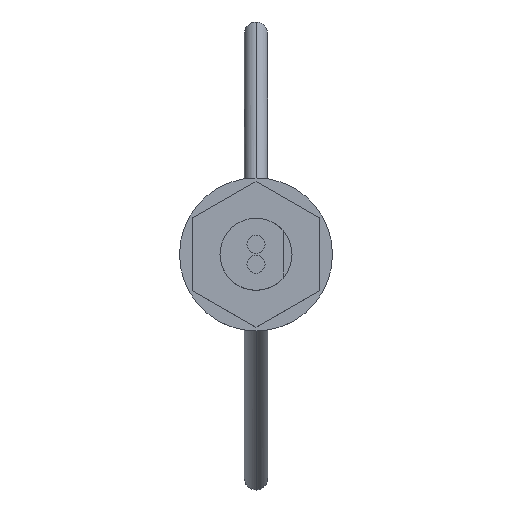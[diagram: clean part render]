
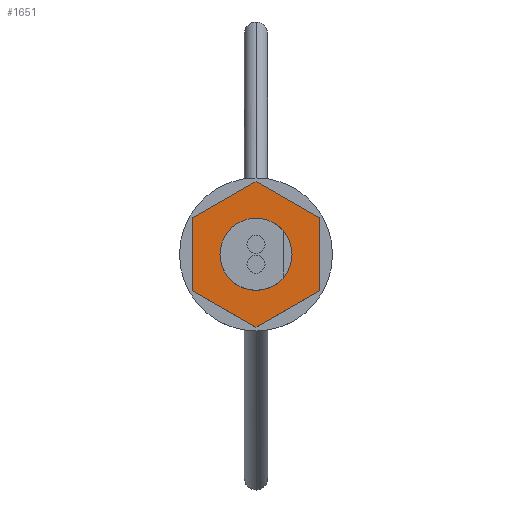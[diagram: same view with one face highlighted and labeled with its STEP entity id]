
A CAD part, top view. The second image highlights one B-rep face of the part: STEP entity #1651.
In plain terms, the highlighted planar face has unit normal (0, 0, 1) as drawn and (-1, 0, 0) by its records, which use the part's own axes.
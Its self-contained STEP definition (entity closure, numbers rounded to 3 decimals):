
#1344 = CARTESIAN_POINT ( 'NONE',  ( -9.1, -4.041, 0. ) ) ;
#1345 = DIRECTION ( 'NONE',  ( 0., -0.5, -0.866 ) ) ;
#1346 = VECTOR ( 'NONE', #1345, 1000. ) ;
#1347 = CARTESIAN_POINT ( 'NONE',  ( -9.1, 4.041, 0. ) ) ;
#1348 = LINE ( 'NONE', #1347, #1346 ) ;
#1349 = DIRECTION ( 'NONE',  ( 0., -1., 0. ) ) ;
#1350 = DIRECTION ( 'NONE',  ( -1., 0., 0. ) ) ;
#1351 = CARTESIAN_POINT ( 'NONE',  ( -9.1, 4.041, 0. ) ) ;
#1352 = AXIS2_PLACEMENT_3D ( 'NONE', #1351, #1350, #1349 ) ;
#1353 = PLANE ( 'NONE',  #1352 ) ;
#1354 = FACE_BOUND ( 'NONE', #1666, .T. ) ;
#1355 = FACE_OUTER_BOUND ( 'NONE', #1646, .T. ) ;
#1356 = DIRECTION ( 'NONE',  ( 0., 0.5, -0.866 ) ) ;
#1357 = VECTOR ( 'NONE', #1356, 1000. ) ;
#1358 = CARTESIAN_POINT ( 'NONE',  ( -9.1, 2.021, 3.5 ) ) ;
#1359 = LINE ( 'NONE', #1358, #1357 ) ;
#1360 = CARTESIAN_POINT ( 'NONE',  ( -9.1, 2.021, 3.5 ) ) ;
#1361 = CARTESIAN_POINT ( 'NONE',  ( -9.1, 4.041, 0. ) ) ;
#1362 = CARTESIAN_POINT ( 'NONE',  ( -9.1, 2.021, -3.5 ) ) ;
#1380 = DIRECTION ( 'NONE',  ( 0., 0.5, 0.866 ) ) ;
#1381 = VECTOR ( 'NONE', #1380, 1000. ) ;
#1382 = CARTESIAN_POINT ( 'NONE',  ( -9.1, -4.041, 0. ) ) ;
#1383 = LINE ( 'NONE', #1382, #1381 ) ;
#1384 = CARTESIAN_POINT ( 'NONE',  ( -9.1, -2.021, 3.5 ) ) ;
#1385 = DIRECTION ( 'NONE',  ( 0., 1., 0. ) ) ;
#1386 = VECTOR ( 'NONE', #1385, 1000. ) ;
#1387 = CARTESIAN_POINT ( 'NONE',  ( -9.1, -2.021, 3.5 ) ) ;
#1388 = LINE ( 'NONE', #1387, #1386 ) ;
#1389 = DIRECTION ( 'NONE',  ( 0., -1., 0. ) ) ;
#1390 = DIRECTION ( 'NONE',  ( -1., 0., 0. ) ) ;
#1391 = CARTESIAN_POINT ( 'NONE',  ( -9.1, 0., 0. ) ) ;
#1392 = AXIS2_PLACEMENT_3D ( 'NONE', #1391, #1390, #1389 ) ;
#1393 = CIRCLE ( 'NONE', #1392, 2. ) ;
#1402 = CARTESIAN_POINT ( 'NONE',  ( -9.1, -2.021, -3.5 ) ) ;
#1403 = DIRECTION ( 'NONE',  ( 0., -1., 0. ) ) ;
#1404 = VECTOR ( 'NONE', #1403, 1000. ) ;
#1405 = CARTESIAN_POINT ( 'NONE',  ( -9.1, 2.021, -3.5 ) ) ;
#1406 = LINE ( 'NONE', #1405, #1404 ) ;
#1411 = CARTESIAN_POINT ( 'NONE',  ( -9.1, -2., 0. ) ) ;
#1412 = CARTESIAN_POINT ( 'NONE',  ( -9.1, 2., 0. ) ) ;
#1432 = DIRECTION ( 'NONE',  ( 0., -0.5, 0.866 ) ) ;
#1433 = VECTOR ( 'NONE', #1432, 1000. ) ;
#1434 = CARTESIAN_POINT ( 'NONE',  ( -9.1, -2.021, -3.5 ) ) ;
#1435 = LINE ( 'NONE', #1434, #1433 ) ;
#1457 = DIRECTION ( 'NONE',  ( 0., -1., 0. ) ) ;
#1458 = DIRECTION ( 'NONE',  ( -1., 0., 0. ) ) ;
#1459 = AXIS2_PLACEMENT_3D ( 'NONE', #1465, #1458, #1457 ) ;
#1460 = CIRCLE ( 'NONE', #1459, 2. ) ;
#1465 = CARTESIAN_POINT ( 'NONE',  ( -9.1, 0., 0. ) ) ;
#1643 = ORIENTED_EDGE ( 'NONE', *, *, #1652, .T. ) ;
#1644 = VERTEX_POINT ( 'NONE', #1362 ) ;
#1646 = EDGE_LOOP ( 'NONE', ( #1649, #1643, #1661, #1656, #1669, #1668 ) ) ;
#1647 = VERTEX_POINT ( 'NONE', #1361 ) ;
#1648 = VERTEX_POINT ( 'NONE', #1360 ) ;
#1649 = ORIENTED_EDGE ( 'NONE', *, *, #1650, .T. ) ;
#1650 = EDGE_CURVE ( 'NONE', #1648, #1647, #1359, .T. ) ;
#1651 = ADVANCED_FACE ( 'NONE', ( #1355, #1354 ), #1353, .T. ) ;
#1652 = EDGE_CURVE ( 'NONE', #1647, #1644, #1348, .T. ) ;
#1653 = VERTEX_POINT ( 'NONE', #1344 ) ;
#1655 = EDGE_CURVE ( 'NONE', #1644, #1657, #1406, .T. ) ;
#1656 = ORIENTED_EDGE ( 'NONE', *, *, #1676, .T. ) ;
#1657 = VERTEX_POINT ( 'NONE', #1402 ) ;
#1661 = ORIENTED_EDGE ( 'NONE', *, *, #1655, .T. ) ;
#1663 = EDGE_CURVE ( 'NONE', #1691, #1690, #1393, .T. ) ;
#1664 = ORIENTED_EDGE ( 'NONE', *, *, #1702, .F. ) ;
#1665 = ORIENTED_EDGE ( 'NONE', *, *, #1663, .F. ) ;
#1666 = EDGE_LOOP ( 'NONE', ( #1664, #1665 ) ) ;
#1667 = EDGE_CURVE ( 'NONE', #1670, #1648, #1388, .T. ) ;
#1668 = ORIENTED_EDGE ( 'NONE', *, *, #1667, .T. ) ;
#1669 = ORIENTED_EDGE ( 'NONE', *, *, #1671, .T. ) ;
#1670 = VERTEX_POINT ( 'NONE', #1384 ) ;
#1671 = EDGE_CURVE ( 'NONE', #1653, #1670, #1383, .T. ) ;
#1676 = EDGE_CURVE ( 'NONE', #1657, #1653, #1435, .T. ) ;
#1690 = VERTEX_POINT ( 'NONE', #1412 ) ;
#1691 = VERTEX_POINT ( 'NONE', #1411 ) ;
#1702 = EDGE_CURVE ( 'NONE', #1690, #1691, #1460, .T. ) ;
